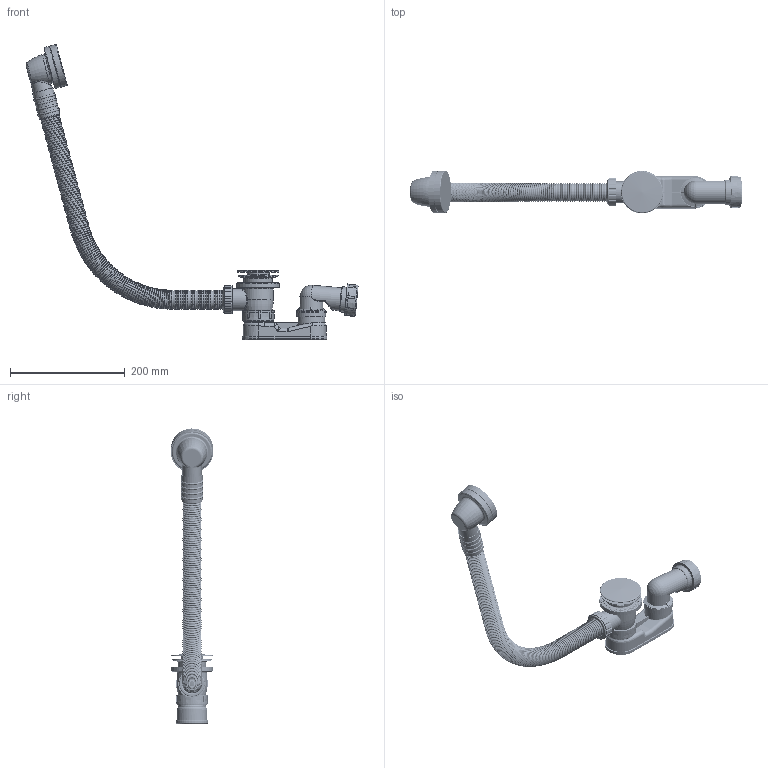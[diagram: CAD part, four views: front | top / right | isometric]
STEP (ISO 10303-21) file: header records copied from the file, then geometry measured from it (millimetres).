
FILE_DESCRIPTION(/* description */ ('Unknown'),/* implementation_level */ '2;1');
FILE_NAME(/* name */ 'RE047',/* time_stamp */ '2023-06-21T10:16:19+02:00',/* author */ ('Unknown'),/* organization */ ('Unknown'),/* preprocessor_version */ 'ST-DEVELOPER v18.102',/* originating_system */ 'Solid Edge',/* authorisation */ 'Unknown');
FILE_SCHEMA (('AUTOMOTIVE_DESIGN {1 0 10303 214 3 1 1}'));
Products named in the file (25): RE047; 081972 - Corpo Interno Click-Clack; MOLLA700N - Molla inox 1x8x35; T700 - Tappo per vasca; 040086 - Membrana 45x33x3.5 NRB 60; 12_1; 080018 - Tubo Platica corrugato cm.87(Curva); 082030 - Corpo Vasca; 050408 - Piletta inox UK; 030957 - Racc. pil. uk Ø22x28.1 G1_4; 040659 - Guarnzione Labbro; 040055 - Guarnizione sagomata 48 x 75(Default); 030978 - Prigioniero ottone M6x40; 030979 - Rac. fermaros esg; 081850 - Rosone colonna D.65; A001032 - Maniglia 40 inox; 040700 - Guarniz. T.C. 1 1_4 Bicomponente; 080452 - Calotta 1 1_4; 081975 - Corpo Esterno G26x19; RE047-001; 082366 - Tappo di chiusura sifone vasca PP_Ver. cliente; 082367 - Codolo curvo sifone vasca PP G1 1_2_Ver. Cliente; 080453 - Calotta 1 1_2; 040716 - Guarniz. conica 1 1_2 Ø39 x 8mm; 082365 - Corpo sifone vasca PP vers. Calotta_Ver. Cliente
Assembly tree (26 placements, depth 3):
  RE047
    081972 - Corpo Interno Click-Clack
    MOLLA700N - Molla inox 1x8x35
    T700 - Tappo per vasca
    040086 - Membrana 45x33x3.5 NRB 60
    12_1
    080018 - Tubo Platica corrugato cm.87(Curva)
    082030 - Corpo Vasca
    050408 - Piletta inox UK
    030957 - Racc. pil. uk Ø22x28.1 G1_4
    040659 - Guarnzione Labbro
    040055 - Guarnizione sagomata 48 x 75(Default)
    030978 - Prigioniero ottone M6x40
    030979 - Rac. fermaros esg
    081850 - Rosone colonna D.65
    A001032 - Maniglia 40 inox
    040700 - Guarniz. T.C. 1 1_4 Bicomponente
    080452 - Calotta 1 1_4
    081975 - Corpo Esterno G26x19
    RE047-001
      082366 - Tappo di chiusura sifone vasca PP_Ver. cliente
      082367 - Codolo curvo sifone vasca PP G1 1_2_Ver. Cliente
      080453 - Calotta 1 1_2  x2
      040716 - Guarniz. conica 1 1_2 Ø39 x 8mm  x2
      082365 - Corpo sifone vasca PP vers. Calotta_Ver. Cliente
Bounding box: 577.85 x 73.99 x 513.6 mm (x, y, z)
Volume: 370929.5 mm3; surface area: 404313.2 mm2
Topology: 24 solids, 27 shells, 1716 faces, 4518 edges, 2887 vertices
Faces by surface type: plane 632, cylinder 444, torus 403, bspline 123, cone 108, sphere 6
Full cylindrical faces by diameter (mm): 5 x4, 5.6 x2, 5.637 x1, 6 x2, 6.5 x1, 7.2 x1, 7.5 x1, 7.9 x1, 8 x2, 8.405 x1, 8.5 x1, 8.62 x1, 10.2 x1, 10.9 x2, 11 x1, 12 x2, 12.281 x1, 15.3 x1, 15.5 x1, 16 x3, 16.1 x1, 16.4 x1, 17 x1, 19.1 x1, 22 x2, 24 x2, 24.6 x1, 26.5 x1, 28 x2, 28.3 x1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
Entity records: 93744 total; most frequent: CARTESIAN_POINT 56824, DIRECTION 7266, ORIENTED_EDGE 7148, EDGE_CURVE 3574, AXIS2_PLACEMENT_3D 2944, VERTEX_POINT 2532, FACE_BOUND 2282, EDGE_LOOP 2281
